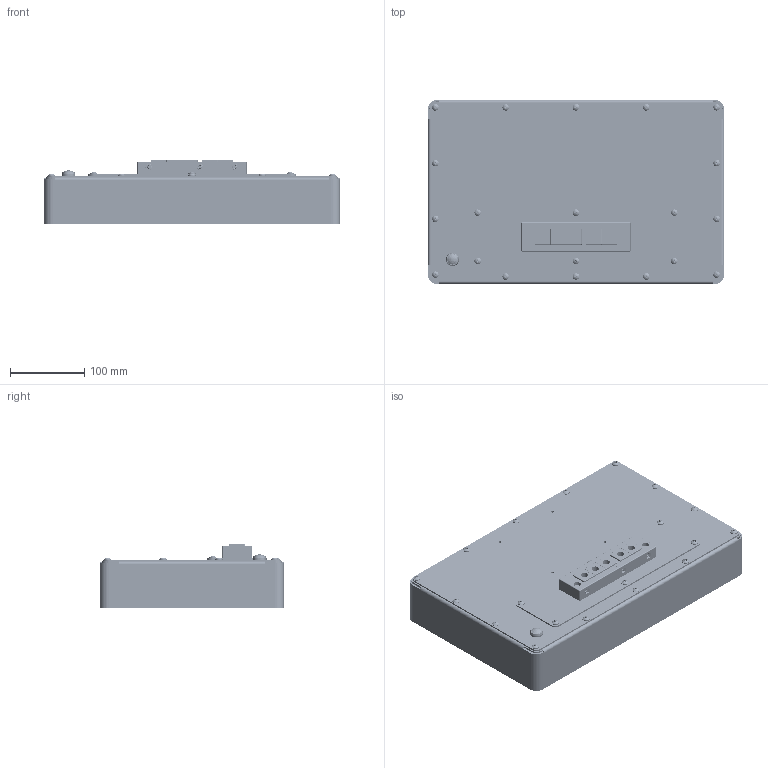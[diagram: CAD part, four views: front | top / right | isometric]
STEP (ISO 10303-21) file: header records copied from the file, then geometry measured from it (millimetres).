
FILE_DESCRIPTION (( 'STEP AP203' ), '1' );
FILE_NAME ('K156S-00 Assembly.STEP', '2026-08-03T10:34:29', ( '' ), ( '' ), 'SwSTEP 2.0', 'SolidWorks 2025', '' );
FILE_SCHEMA (( 'CONFIG_CONTROL_DESIGN' ));
Length unit declared in the file: millimetre
Products named in the file (46): Sealing^K156S-00 Assembly; ITW 59111_ring; IPPC00-10 Connector cover; 48250_04; 48250_08; IPPC00-13 Montageplaat klein; GPC-156G-PD-G03B.; Tubtara M4 HUKX30; 48250_10; 48250_06; K156S-00 Assembly; ALN35-10 Heatspreader; K156S-11 Glassmount; G156HCE-L01; ALN-35 met heatspreader; ITW 59111_locknut; 48250_07; Meanwell IRM-60-12ST; ITW 59111; 48250_05; K156S-15 Displaystrip; ITW 59111_button; 48250; K156S-12 Panelframe; TEST BS-M4-8 RVS blinde inpersafstandsteun; Tubtara M4 HUKX20; 48250_01; ALN35-Without_heatsink; 48250_13; S-M5-2-ZI Inpersmoer; 48250_12; K-UNI-01 Componenten assembly_15.6"; 48250_09; K156S-10 Front; IPPC00-28 Backpanel ALN35; Part2^K156S-00 Assembly; 48250_03; S-M3-1-ZI Inpersmoer; K156S-13 backcover; DIN 967 - M4 x 12 - Z --- 10.6N_DIN 967 - M4 x 12 - Z --- 10.6N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
Assembly tree (90 placements, depth 4):
  K156S-00 Assembly
    K156S-10 Front
      K156S-10 Front
      Tubtara M4 HUKX30  x14
    K156S-11 Glassmount
    K156S-12 Panelframe
    K156S-13 backcover
      K156S-13 backcover
      Tubtara M4 HUKX20  x6
      TEST BS-M4-8 RVS blinde inpersafstandsteun  x4
    K-UNI-01 Componenten assembly_15.6"
      IPPC00-10 Connector cover
        IPPC00-10 Connector cover
        S-M5-2-ZI Inpersmoer  x2
      48250
        48250_01
        48250_02
        48250_03
        48250_04
        48250_05
        48250_06
        48250_07
        48250_08
        48250_09
        48250_10
        48250_11
        48250_12
        48250_13
      ALN-35 met heatspreader
        ALN35-10 Heatspreader
        ALN35-Without_heatsink
      IPPC00-28 Backpanel ALN35
      Meanwell IRM-60-12ST
      IPPC00-13 Montageplaat klein
        IPPC00-13 Montageplaat klein
        S-M3-1-ZI Inpersmoer  x4
    G156HCE-L01
    GPC-156G-PD-G03B.
    Sealing^K156S-00 Assembly
    ITW 59111
      ITW 59111_button
      ITW 59111_ring
      ITW 59111_locknut
    DIN 967 - M4 x 12 - Z --- 10.6N_DIN 967 - M4 x 12 - Z --- 10.6N  x20
    K156S-15 Displaystrip  x2
    Part2^K156S-00 Assembly
Bounding box: 399 x 248 x 86 mm (x, y, z)
Volume: 1872165.8 mm3; surface area: 1239539.5 mm2
Topology: 81 solids, 345 shells, 6538 faces, 27575 edges, 21156 vertices
Faces by surface type: plane 4462, cylinder 1376, cone 322, bspline 243, torus 75, sphere 60
Full cylindrical faces by diameter (mm): 1.397 x2, 2.5 x9, 3 x4, 3.4 x40, 3.5 x8, 4 x34, 4.008 x14, 4.04 x14, 4.2 x9, 4.3 x4, 4.41 x2, 4.5 x6, 5 x23, 5.104 x1, 5.2 x5, 5.5 x20, 5.8 x2, 6 x20, 6.2 x10, 6.3 x4, 6.4 x2, 6.48 x2, 6.5 x4, 7.1 x4, 7.22 x4, 8.5 x3, 8.7 x2, 9 x1, 10 x25, 11.43 x1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
Entity records: 272383 total; most frequent: CARTESIAN_POINT 81664, ORIENTED_EDGE 35061, DIRECTION 33313, EDGE_CURVE 24520, VERTEX_POINT 19370, LINE 14823, VECTOR 14823, AXIS2_PLACEMENT_3D 9245
